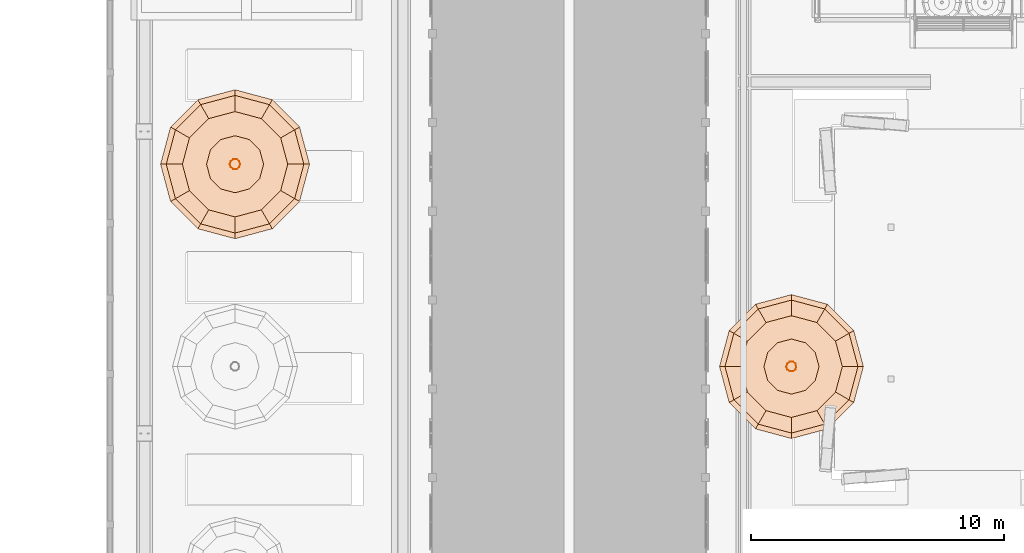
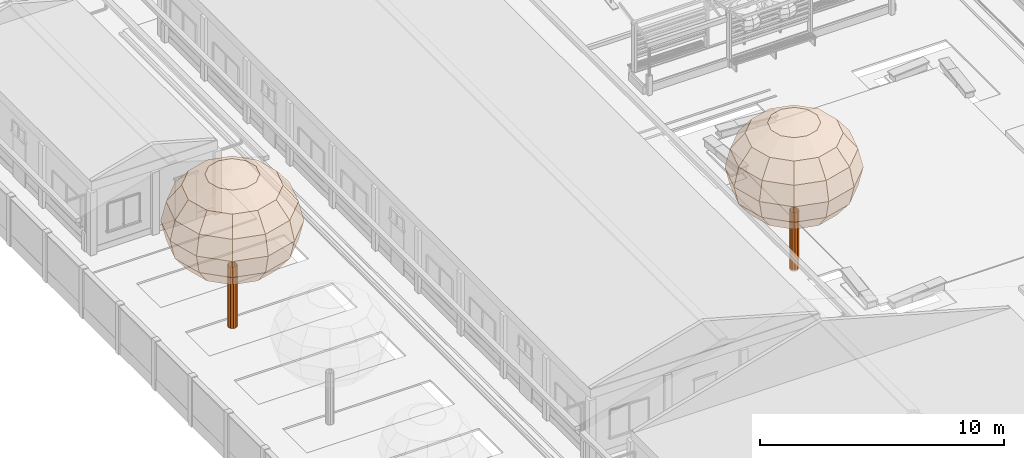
# One storey, part 160 of 177: 4 geographic elements.
"""IFC4 building model written with IfcOpenShell, lengths in metres."""

from ifc_helpers import new_model, si_unit, origin, origin_with_axes, place, context, subcontext, project, spatial, triangles, element, save


model = new_model("IFC4")

# Units and contexts
model_context = context("Model", 3, precision=1e-05, world=origin_with_axes())
body_context = subcontext(model_context, "Body", "Model", "MODEL_VIEW")
ifc_project = project(units=[si_unit("LENGTHUNIT", "METRE"), si_unit("AREAUNIT", "SQUARE_METRE"), si_unit("VOLUMEUNIT", "CUBIC_METRE"), si_unit("PLANEANGLEUNIT", "RADIAN")], contexts=[model_context])

# Site, building, storey
site_placement = place(None, origin_with_axes())
site = spatial("IfcSite", under=ifc_project, at=site_placement, Name="Predio Los Mangos - Morales, San Martín", CompositionType="ELEMENT")
building_placement = place(site_placement, origin())
building = spatial("IfcBuilding", under=site, at=building_placement, Name="Hogar de Refugio Temporal", CompositionType="ELEMENT")
storey_placement = place(building_placement, origin())
storey = spatial("IfcBuildingStorey", under=building, at=storey_placement, Name="NIVEL 1 (NPT +0.00)", CompositionType="ELEMENT", Elevation=0.0)

# Geographic elements
geographic_element_1_placement = place(storey_placement, origin())
element("IfcGeographicElement", 1, at=geographic_element_1_placement, inside=storey, Name="arbol_tronco", ObjectType="Árbol", PredefinedType="NOTDEFINED", context=body_context, shape_type="Tessellation", body=[
    triangles([(6.2049, 68.0, 0.0), (6.1657, 68.1204, 0.0), (6.0633, 68.1948, 0.0), (5.9367, 68.1948, 0.0), (5.8343, 68.1204, 0.0), (5.7951, 68.0, 0.0), (5.8343, 67.8796, 0.0), (5.9367, 67.8052, 0.0), (6.0633, 67.8052, 0.0), (6.1657, 67.8796, 0.0), (6.2049, 68.0, 3.0731), (6.1657, 68.1204, 3.0731), (6.0633, 68.1948, 3.0731), (5.9367, 68.1948, 3.0731), (5.8343, 68.1204, 3.0731), (5.7951, 68.0, 3.0731), (5.8343, 67.8796, 3.0731), (5.9367, 67.8052, 3.0731), (6.0633, 67.8052, 3.0731), (6.1657, 67.8796, 3.0731)], [[1, 2, 12], [2, 3, 13], [3, 4, 14], [4, 5, 15], [5, 6, 16], [6, 7, 17], [7, 8, 18], [8, 9, 19], [9, 10, 20], [10, 1, 11], [1, 12, 11], [2, 13, 12], [3, 14, 13], [4, 15, 14], [5, 16, 15], [6, 17, 16], [7, 18, 17], [8, 19, 18], [9, 20, 19], [10, 11, 20]]),
])
geographic_element_2_placement = place(storey_placement, origin())
element("IfcGeographicElement", 2, at=geographic_element_2_placement, inside=storey, Name="arbol_copa", ObjectType="Árbol", PredefinedType="NOTDEFINED", context=body_context, shape_type="Tessellation", body=[
    triangles([(6.0, 68.0, 7.7853), (6.0, 68.0, 7.7853), (6.0, 68.0, 7.7853), (6.0, 68.0, 7.7853), (6.0, 68.0, 7.7853), (6.0, 68.0, 7.7853), (6.0, 68.0, 7.7853), (6.0, 68.0, 7.7853), (6.0, 68.0, 7.7853), (6.0, 68.0, 7.7853), (6.0, 68.0, 7.7853), (6.0, 68.0, 7.7853), (7.127, 68.0, 7.5948), (6.976, 68.5635, 7.5948), (6.5635, 68.976, 7.5948), (6.0, 69.127, 7.5948), (5.4365, 68.976, 7.5948), (5.024, 68.5635, 7.5948), (4.873, 68.0, 7.5948), (5.024, 67.4365, 7.5948), (5.4365, 67.024, 7.5948), (6.0, 66.873, 7.5948), (6.5635, 67.024, 7.5948), (6.976, 67.4365, 7.5948), (8.0825, 68.0, 7.0521), (7.8035, 69.0412, 7.0521), (7.0412, 69.8035, 7.0521), (6.0, 70.0825, 7.0521), (4.9588, 69.8035, 7.0521), (4.1965, 69.0412, 7.0521), (3.9175, 68.0, 7.0521), (4.1965, 66.9588, 7.0521), (4.9588, 66.1965, 7.0521), (6.0, 65.9175, 7.0521), (7.0412, 66.1965, 7.0521), (7.8035, 66.9588, 7.0521), (8.7209, 68.0, 6.24), (8.3564, 69.3605, 6.24), (7.3605, 70.3564, 6.24), (6.0, 70.7209, 6.24), (4.6395, 70.3564, 6.24), (3.6436, 69.3605, 6.24), (3.2791, 68.0, 6.24), (3.6436, 66.6395, 6.24), (4.6395, 65.6436, 6.24), (6.0, 65.2791, 6.24), (7.3605, 65.6436, 6.24), (8.3564, 66.6395, 6.24), (8.9451, 68.0, 5.282), (8.5505, 69.4725, 5.282), (7.4725, 70.5505, 5.282), (6.0, 70.9451, 5.282), (4.5275, 70.5505, 5.282), (3.4495, 69.4725, 5.282), (3.0549, 68.0, 5.282), (3.4495, 66.5275, 5.282), (4.5275, 65.4495, 5.282), (6.0, 65.0549, 5.282), (7.4725, 65.4495, 5.282), (8.5505, 66.5275, 5.282), (8.7209, 68.0, 4.324), (8.3564, 69.3605, 4.324), (7.3605, 70.3564, 4.324), (6.0, 70.7209, 4.324), (4.6395, 70.3564, 4.324), (3.6436, 69.3605, 4.324), (3.2791, 68.0, 4.324), (3.6436, 66.6395, 4.324), (4.6395, 65.6436, 4.324), (6.0, 65.2791, 4.324), (7.3605, 65.6436, 4.324), (8.3564, 66.6395, 4.324), (8.0825, 68.0, 3.5118), (7.8035, 69.0412, 3.5118), (7.0412, 69.8035, 3.5118), (6.0, 70.0825, 3.5118), (4.9588, 69.8035, 3.5118), (4.1965, 69.0412, 3.5118), (3.9175, 68.0, 3.5118), (4.1965, 66.9588, 3.5118), (4.9588, 66.1965, 3.5118), (6.0, 65.9175, 3.5118), (7.0412, 66.1965, 3.5118), (7.8035, 66.9588, 3.5118), (7.127, 68.0, 2.9692), (6.976, 68.5635, 2.9692), (6.5635, 68.976, 2.9692), (6.0, 69.127, 2.9692), (5.4365, 68.976, 2.9692), (5.024, 68.5635, 2.9692), (4.873, 68.0, 2.9692), (5.024, 67.4365, 2.9692), (5.4365, 67.024, 2.9692), (6.0, 66.873, 2.9692), (6.5635, 67.024, 2.9692), (6.976, 67.4365, 2.9692), (6.0, 68.0, 2.7786), (6.0, 68.0, 2.7786), (6.0, 68.0, 2.7786), (6.0, 68.0, 2.7786), (6.0, 68.0, 2.7786), (6.0, 68.0, 2.7786), (6.0, 68.0, 2.7786), (6.0, 68.0, 2.7786), (6.0, 68.0, 2.7786), (6.0, 68.0, 2.7786), (6.0, 68.0, 2.7786), (6.0, 68.0, 2.7786)], [[1, 2, 14], [1, 14, 13], [2, 3, 15], [2, 15, 14], [3, 4, 16], [3, 16, 15], [4, 5, 17], [4, 17, 16], [5, 6, 18], [5, 18, 17], [6, 7, 19], [6, 19, 18], [7, 8, 20], [7, 20, 19], [8, 9, 21], [8, 21, 20], [9, 10, 22], [9, 22, 21], [10, 11, 23], [10, 23, 22], [11, 12, 24], [11, 24, 23], [12, 1, 13], [12, 13, 24], [13, 14, 26], [13, 26, 25], [14, 15, 27], [14, 27, 26], [15, 16, 28], [15, 28, 27], [16, 17, 29], [16, 29, 28], [17, 18, 30], [17, 30, 29], [18, 19, 31], [18, 31, 30], [19, 20, 32], [19, 32, 31], [20, 21, 33], [20, 33, 32], [21, 22, 34], [21, 34, 33], [22, 23, 35], [22, 35, 34], [23, 24, 36], [23, 36, 35], [24, 13, 25], [24, 25, 36], [25, 26, 38], [25, 38, 37], [26, 27, 39], [26, 39, 38], [27, 28, 40], [27, 40, 39], [28, 29, 41], [28, 41, 40], [29, 30, 42], [29, 42, 41], [30, 31, 43], [30, 43, 42], [31, 32, 44], [31, 44, 43], [32, 33, 45], [32, 45, 44], [33, 34, 46], [33, 46, 45], [34, 35, 47], [34, 47, 46], [35, 36, 48], [35, 48, 47], [36, 25, 37], [36, 37, 48], [37, 38, 50], [37, 50, 49], [38, 39, 51], [38, 51, 50], [39, 40, 52], [39, 52, 51], [40, 41, 53], [40, 53, 52], [41, 42, 54], [41, 54, 53], [42, 43, 55], [42, 55, 54], [43, 44, 56], [43, 56, 55], [44, 45, 57], [44, 57, 56], [45, 46, 58], [45, 58, 57], [46, 47, 59], [46, 59, 58], [47, 48, 60], [47, 60, 59], [48, 37, 49], [48, 49, 60], [49, 50, 62], [49, 62, 61], [50, 51, 63], [50, 63, 62], [51, 52, 64], [51, 64, 63], [52, 53, 65], [52, 65, 64], [53, 54, 66], [53, 66, 65], [54, 55, 67], [54, 67, 66], [55, 56, 68], [55, 68, 67], [56, 57, 69], [56, 69, 68], [57, 58, 70], [57, 70, 69], [58, 59, 71], [58, 71, 70], [59, 60, 72], [59, 72, 71], [60, 49, 61], [60, 61, 72], [61, 62, 74], [61, 74, 73], [62, 63, 75], [62, 75, 74], [63, 64, 76], [63, 76, 75], [64, 65, 77], [64, 77, 76], [65, 66, 78], [65, 78, 77], [66, 67, 79], [66, 79, 78], [67, 68, 80], [67, 80, 79], [68, 69, 81], [68, 81, 80], [69, 70, 82], [69, 82, 81], [70, 71, 83], [70, 83, 82], [71, 72, 84], [71, 84, 83], [72, 61, 73], [72, 73, 84], [73, 74, 86], [73, 86, 85], [74, 75, 87], [74, 87, 86], [75, 76, 88], [75, 88, 87], [76, 77, 89], [76, 89, 88], [77, 78, 90], [77, 90, 89], [78, 79, 91], [78, 91, 90], [79, 80, 92], [79, 92, 91], [80, 81, 93], [80, 93, 92], [81, 82, 94], [81, 94, 93], [82, 83, 95], [82, 95, 94], [83, 84, 96], [83, 96, 95], [84, 73, 85], [84, 85, 96], [85, 86, 98], [85, 98, 97], [86, 87, 99], [86, 99, 98], [87, 88, 100], [87, 100, 99], [88, 89, 101], [88, 101, 100], [89, 90, 102], [89, 102, 101], [90, 91, 103], [90, 103, 102], [91, 92, 104], [91, 104, 103], [92, 93, 105], [92, 105, 104], [93, 94, 106], [93, 106, 105], [94, 95, 107], [94, 107, 106], [95, 96, 108], [95, 108, 107], [96, 85, 97], [96, 97, 108]]),
])
geographic_element_3_placement = place(storey_placement, origin())
element("IfcGeographicElement", 3, at=geographic_element_3_placement, inside=storey, Name="arbol_tronco", ObjectType="Árbol", PredefinedType="NOTDEFINED", context=body_context, shape_type="Tessellation", body=[
    triangles([(28.1979, 60.0, 0.0), (28.1601, 60.1163, 0.0), (28.0612, 60.1882, 0.0), (27.9388, 60.1882, 0.0), (27.8399, 60.1163, 0.0), (27.8021, 60.0, 0.0), (27.8399, 59.8837, 0.0), (27.9388, 59.8118, 0.0), (28.0612, 59.8118, 0.0), (28.1601, 59.8837, 0.0), (28.1979, 60.0, 2.9689), (28.1601, 60.1163, 2.9689), (28.0612, 60.1882, 2.9689), (27.9388, 60.1882, 2.9689), (27.8399, 60.1163, 2.9689), (27.8021, 60.0, 2.9689), (27.8399, 59.8837, 2.9689), (27.9388, 59.8118, 2.9689), (28.0612, 59.8118, 2.9689), (28.1601, 59.8837, 2.9689)], [[1, 2, 12], [2, 3, 13], [3, 4, 14], [4, 5, 15], [5, 6, 16], [6, 7, 17], [7, 8, 18], [8, 9, 19], [9, 10, 20], [10, 1, 11], [1, 12, 11], [2, 13, 12], [3, 14, 13], [4, 15, 14], [5, 16, 15], [6, 17, 16], [7, 18, 17], [8, 19, 18], [9, 20, 19], [10, 11, 20]]),
])
geographic_element_4_placement = place(storey_placement, origin())
element("IfcGeographicElement", 4, at=geographic_element_4_placement, inside=storey, Name="arbol_copa", ObjectType="Árbol", PredefinedType="NOTDEFINED", context=body_context, shape_type="Tessellation", body=[
    triangles([(28.0, 60.0, 7.5211), (28.0, 60.0, 7.5211), (28.0, 60.0, 7.5211), (28.0, 60.0, 7.5211), (28.0, 60.0, 7.5211), (28.0, 60.0, 7.5211), (28.0, 60.0, 7.5211), (28.0, 60.0, 7.5211), (28.0, 60.0, 7.5211), (28.0, 60.0, 7.5211), (28.0, 60.0, 7.5211), (28.0, 60.0, 7.5211), (29.0888, 60.0, 7.337), (28.9429, 60.5444, 7.337), (28.5444, 60.9429, 7.337), (28.0, 61.0888, 7.337), (27.4556, 60.9429, 7.337), (27.0571, 60.5444, 7.337), (26.9112, 60.0, 7.337), (27.0571, 59.4556, 7.337), (27.4556, 59.0571, 7.337), (28.0, 58.9112, 7.337), (28.5444, 59.0571, 7.337), (28.9429, 59.4556, 7.337), (30.0118, 60.0, 6.8128), (29.7423, 61.0059, 6.8128), (29.0059, 61.7423, 6.8128), (28.0, 62.0118, 6.8128), (26.9941, 61.7423, 6.8128), (26.2577, 61.0059, 6.8128), (25.9882, 60.0, 6.8128), (26.2577, 58.9941, 6.8128), (26.9941, 58.2577, 6.8128), (28.0, 57.9882, 6.8128), (29.0059, 58.2577, 6.8128), (29.7423, 58.9941, 6.8128), (30.6286, 60.0, 6.0282), (30.2764, 61.3143, 6.0282), (29.3143, 62.2764, 6.0282), (28.0, 62.6286, 6.0282), (26.6857, 62.2764, 6.0282), (25.7236, 61.3143, 6.0282), (25.3714, 60.0, 6.0282), (25.7236, 58.6857, 6.0282), (26.6857, 57.7236, 6.0282), (28.0, 57.3714, 6.0282), (29.3143, 57.7236, 6.0282), (30.2764, 58.6857, 6.0282), (30.8452, 60.0, 5.1027), (30.464, 61.4226, 5.1027), (29.4226, 62.464, 5.1027), (28.0, 62.8452, 5.1027), (26.5774, 62.464, 5.1027), (25.536, 61.4226, 5.1027), (25.1548, 60.0, 5.1027), (25.536, 58.5774, 5.1027), (26.5774, 57.536, 5.1027), (28.0, 57.1548, 5.1027), (29.4226, 57.536, 5.1027), (30.464, 58.5774, 5.1027), (30.6286, 60.0, 4.1772), (30.2764, 61.3143, 4.1772), (29.3143, 62.2764, 4.1772), (28.0, 62.6286, 4.1772), (26.6857, 62.2764, 4.1772), (25.7236, 61.3143, 4.1772), (25.3714, 60.0, 4.1772), (25.7236, 58.6857, 4.1772), (26.6857, 57.7236, 4.1772), (28.0, 57.3714, 4.1772), (29.3143, 57.7236, 4.1772), (30.2764, 58.6857, 4.1772), (30.0118, 60.0, 3.3927), (29.7423, 61.0059, 3.3927), (29.0059, 61.7423, 3.3927), (28.0, 62.0118, 3.3927), (26.9941, 61.7423, 3.3927), (26.2577, 61.0059, 3.3927), (25.9882, 60.0, 3.3927), (26.2577, 58.9941, 3.3927), (26.9941, 58.2577, 3.3927), (28.0, 57.9882, 3.3927), (29.0059, 58.2577, 3.3927), (29.7423, 58.9941, 3.3927), (29.0888, 60.0, 2.8684), (28.9429, 60.5444, 2.8684), (28.5444, 60.9429, 2.8684), (28.0, 61.0888, 2.8684), (27.4556, 60.9429, 2.8684), (27.0571, 60.5444, 2.8684), (26.9112, 60.0, 2.8684), (27.0571, 59.4556, 2.8684), (27.4556, 59.0571, 2.8684), (28.0, 58.9112, 2.8684), (28.5444, 59.0571, 2.8684), (28.9429, 59.4556, 2.8684), (28.0, 60.0, 2.6843), (28.0, 60.0, 2.6843), (28.0, 60.0, 2.6843), (28.0, 60.0, 2.6843), (28.0, 60.0, 2.6843), (28.0, 60.0, 2.6843), (28.0, 60.0, 2.6843), (28.0, 60.0, 2.6843), (28.0, 60.0, 2.6843), (28.0, 60.0, 2.6843), (28.0, 60.0, 2.6843), (28.0, 60.0, 2.6843)], [[1, 2, 14], [1, 14, 13], [2, 3, 15], [2, 15, 14], [3, 4, 16], [3, 16, 15], [4, 5, 17], [4, 17, 16], [5, 6, 18], [5, 18, 17], [6, 7, 19], [6, 19, 18], [7, 8, 20], [7, 20, 19], [8, 9, 21], [8, 21, 20], [9, 10, 22], [9, 22, 21], [10, 11, 23], [10, 23, 22], [11, 12, 24], [11, 24, 23], [12, 1, 13], [12, 13, 24], [13, 14, 26], [13, 26, 25], [14, 15, 27], [14, 27, 26], [15, 16, 28], [15, 28, 27], [16, 17, 29], [16, 29, 28], [17, 18, 30], [17, 30, 29], [18, 19, 31], [18, 31, 30], [19, 20, 32], [19, 32, 31], [20, 21, 33], [20, 33, 32], [21, 22, 34], [21, 34, 33], [22, 23, 35], [22, 35, 34], [23, 24, 36], [23, 36, 35], [24, 13, 25], [24, 25, 36], [25, 26, 38], [25, 38, 37], [26, 27, 39], [26, 39, 38], [27, 28, 40], [27, 40, 39], [28, 29, 41], [28, 41, 40], [29, 30, 42], [29, 42, 41], [30, 31, 43], [30, 43, 42], [31, 32, 44], [31, 44, 43], [32, 33, 45], [32, 45, 44], [33, 34, 46], [33, 46, 45], [34, 35, 47], [34, 47, 46], [35, 36, 48], [35, 48, 47], [36, 25, 37], [36, 37, 48], [37, 38, 50], [37, 50, 49], [38, 39, 51], [38, 51, 50], [39, 40, 52], [39, 52, 51], [40, 41, 53], [40, 53, 52], [41, 42, 54], [41, 54, 53], [42, 43, 55], [42, 55, 54], [43, 44, 56], [43, 56, 55], [44, 45, 57], [44, 57, 56], [45, 46, 58], [45, 58, 57], [46, 47, 59], [46, 59, 58], [47, 48, 60], [47, 60, 59], [48, 37, 49], [48, 49, 60], [49, 50, 62], [49, 62, 61], [50, 51, 63], [50, 63, 62], [51, 52, 64], [51, 64, 63], [52, 53, 65], [52, 65, 64], [53, 54, 66], [53, 66, 65], [54, 55, 67], [54, 67, 66], [55, 56, 68], [55, 68, 67], [56, 57, 69], [56, 69, 68], [57, 58, 70], [57, 70, 69], [58, 59, 71], [58, 71, 70], [59, 60, 72], [59, 72, 71], [60, 49, 61], [60, 61, 72], [61, 62, 74], [61, 74, 73], [62, 63, 75], [62, 75, 74], [63, 64, 76], [63, 76, 75], [64, 65, 77], [64, 77, 76], [65, 66, 78], [65, 78, 77], [66, 67, 79], [66, 79, 78], [67, 68, 80], [67, 80, 79], [68, 69, 81], [68, 81, 80], [69, 70, 82], [69, 82, 81], [70, 71, 83], [70, 83, 82], [71, 72, 84], [71, 84, 83], [72, 61, 73], [72, 73, 84], [73, 74, 86], [73, 86, 85], [74, 75, 87], [74, 87, 86], [75, 76, 88], [75, 88, 87], [76, 77, 89], [76, 89, 88], [77, 78, 90], [77, 90, 89], [78, 79, 91], [78, 91, 90], [79, 80, 92], [79, 92, 91], [80, 81, 93], [80, 93, 92], [81, 82, 94], [81, 94, 93], [82, 83, 95], [82, 95, 94], [83, 84, 96], [83, 96, 95], [84, 73, 85], [84, 85, 96], [85, 86, 98], [85, 98, 97], [86, 87, 99], [86, 99, 98], [87, 88, 100], [87, 100, 99], [88, 89, 101], [88, 101, 100], [89, 90, 102], [89, 102, 101], [90, 91, 103], [90, 103, 102], [91, 92, 104], [91, 104, 103], [92, 93, 105], [92, 105, 104], [93, 94, 106], [93, 106, 105], [94, 95, 107], [94, 107, 106], [95, 96, 108], [95, 108, 107], [96, 85, 97], [96, 97, 108]]),
])

save(model, "model.ifc")
